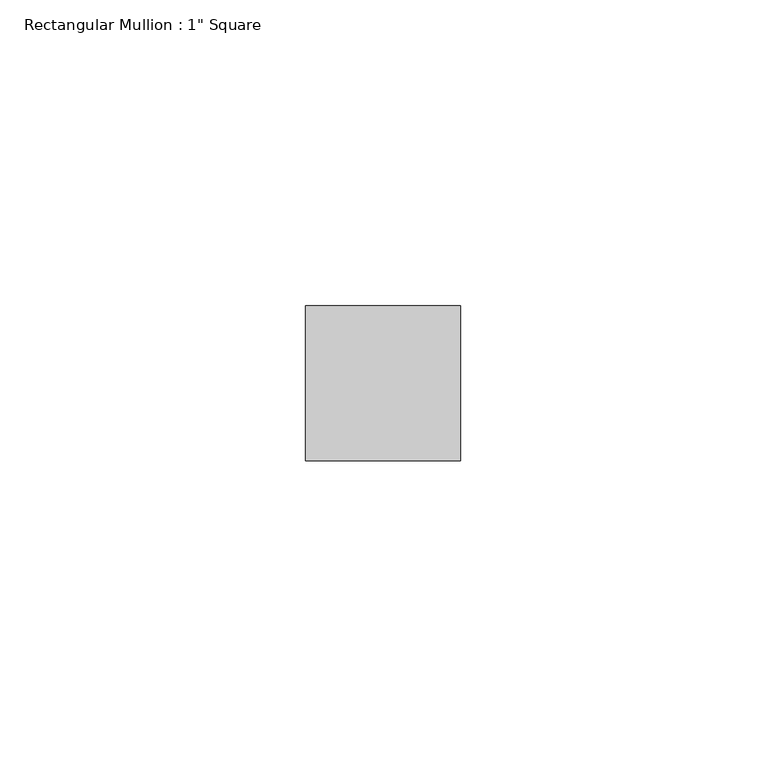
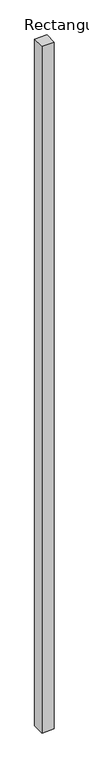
"""IFC4 building model written with IfcOpenShell, lengths in millimetres: member geometry."""

from ifc_helpers import new_model, si_unit, frame, origin, place, context, project, spatial, polyline, outline, extrude, source, transform, mapped, element, save


def member_74941792(model_context):
    return source(origin(), model_context, "Body", "SweptSolid", [
        extrude(outline(polyline([(0.0, 12.7), (0.0, -12.7), (-25.4, -12.7), (-25.4, 12.7), (0.0, 12.7)])), frame((0.0, 0.0, -1485.9), z_axis=(0.0, 0.0, 1.0), x_axis=(1.0, 0.0, 0.0)), (0.0, 0.0, 1.0), 1485.9),
    ])


if __name__ == "__main__":
    model = new_model("IFC4")
    model_context = context("Model", 3, world=origin())
    ifc_project = project(units=[si_unit("LENGTHUNIT", "METRE", prefix="MILLI")], contexts=[model_context])
    site = spatial("IfcSite", under=ifc_project)
    building = spatial("IfcBuilding", under=site)
    placement = place(None, origin())
    member_shape = member_74941792(model_context)
    element("IfcMember", 1, ObjectType="Rectangular Mullion : 1\" Square", at=placement, inside=building, context=model_context, shape_type="MappedRepresentation", body=[
        mapped(member_shape, transform((0.0, 0.0, 0.0), x_axis=(1.0, 0.0, 0.0), y_axis=(0.0, 1.0, 0.0), z_axis=(0.0, 0.0, 1.0))),
    ])
    save(model, "model.ifc")
